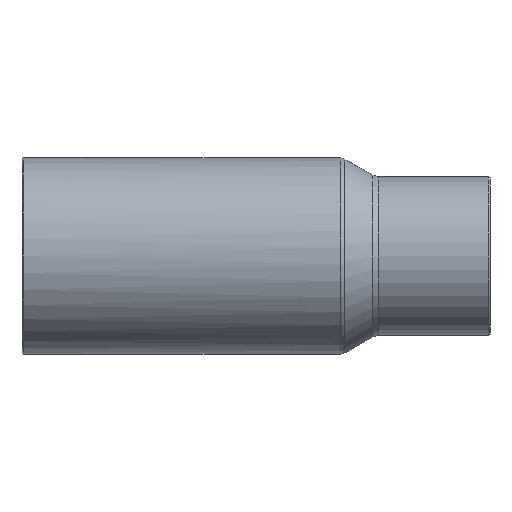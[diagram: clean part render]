
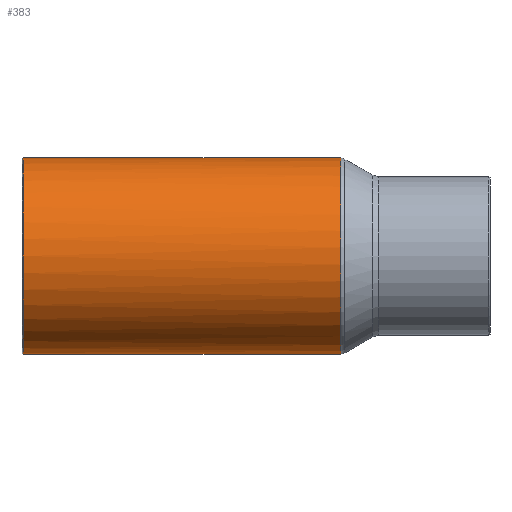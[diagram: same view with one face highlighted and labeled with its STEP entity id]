
A CAD part, front view. The second image highlights one B-rep face of the part: STEP entity #383.
In plain terms, the highlighted cylindrical face has radius 16.25 mm (diameter 32.5 mm), a full revolution.
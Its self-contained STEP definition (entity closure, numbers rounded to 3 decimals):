
#121=CARTESIAN_POINT('',(0.,0.0,-16.25));
#122=VERTEX_POINT('',#121);
#123=CARTESIAN_POINT('',(0.,0.0,16.25));
#124=VERTEX_POINT('',#123);
#309=CARTESIAN_POINT('',(-36.,16.25,0.));
#310=VERTEX_POINT('',#309);
#311=CARTESIAN_POINT('',(-36.,0.0,0.0));
#312=DIRECTION('',(-1.0,0.0,0.0));
#313=DIRECTION('',(0.0,-1.0,0.0));
#314=AXIS2_PLACEMENT_3D('',#311,#312,#313);
#315=CIRCLE('',#314,16.25);
#316=EDGE_CURVE('',#310,#310,#315,.T.);
#341=CARTESIAN_POINT('',(2.45,0.0,0.0));
#342=DIRECTION('',(1.0,0.0,0.0));
#343=DIRECTION('',(0.0,1.0,0.0));
#344=AXIS2_PLACEMENT_3D('',#341,#342,#343);
#345=CYLINDRICAL_SURFACE('',#344,16.25);
#346=CARTESIAN_POINT('',(16.473,13.219,9.451));
#347=VERTEX_POINT('',#346);
#348=CARTESIAN_POINT('',(16.473,13.219,-9.451));
#349=VERTEX_POINT('',#348);
#350=CARTESIAN_POINT('',(16.473,0.0,0.0));
#351=DIRECTION('',(1.0,0.0,0.0));
#352=DIRECTION('',(0.0,-1.0,0.0));
#353=AXIS2_PLACEMENT_3D('',#350,#351,#352);
#354=CIRCLE('',#353,16.25);
#355=EDGE_CURVE('',#347,#349,#354,.T.);
#356=ORIENTED_EDGE('',*,*,#355,.F.);
#357=CARTESIAN_POINT('',(0.0,0.0,0.0));
#358=DIRECTION('',(-0.626,0.78,0.));
#359=DIRECTION('',(0.78,0.626,0.0));
#360=AXIS2_PLACEMENT_3D('',#357,#358,#359);
#361=ELLIPSE('',#360,25.964,16.25);
#362=EDGE_CURVE('',#124,#347,#361,.T.);
#363=ORIENTED_EDGE('',*,*,#362,.F.);
#364=CARTESIAN_POINT('',(0.0,0.0,0.0));
#365=DIRECTION('',(0.626,0.78,0.));
#366=DIRECTION('',(-0.78,0.626,0.0));
#367=AXIS2_PLACEMENT_3D('',#364,#365,#366);
#368=ELLIPSE('',#367,25.964,16.25);
#369=EDGE_CURVE('',#122,#124,#368,.T.);
#370=ORIENTED_EDGE('',*,*,#369,.F.);
#371=CARTESIAN_POINT('',(0.0,0.0,0.0));
#372=DIRECTION('',(-0.626,0.78,0.));
#373=DIRECTION('',(0.78,0.626,0.0));
#374=AXIS2_PLACEMENT_3D('',#371,#372,#373);
#375=ELLIPSE('',#374,25.964,16.25);
#376=EDGE_CURVE('',#349,#122,#375,.T.);
#377=ORIENTED_EDGE('',*,*,#376,.F.);
#378=EDGE_LOOP('',(#356,#363,#370,#377));
#379=FACE_OUTER_BOUND('',#378,.T.);
#380=ORIENTED_EDGE('',*,*,#316,.F.);
#381=EDGE_LOOP('',(#380));
#382=FACE_BOUND('',#381,.T.);
#383=ADVANCED_FACE('',(#379,#382),#345,.T.);
